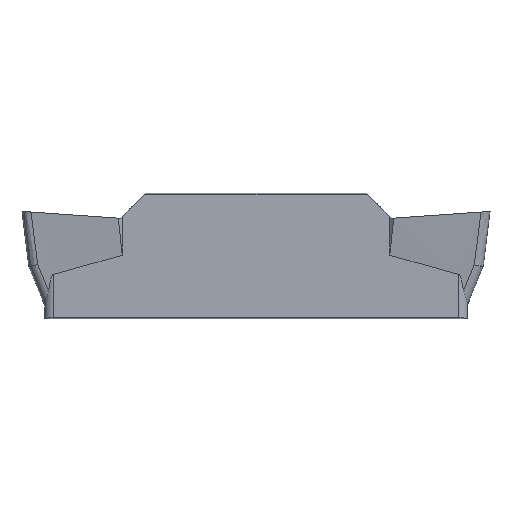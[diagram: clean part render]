
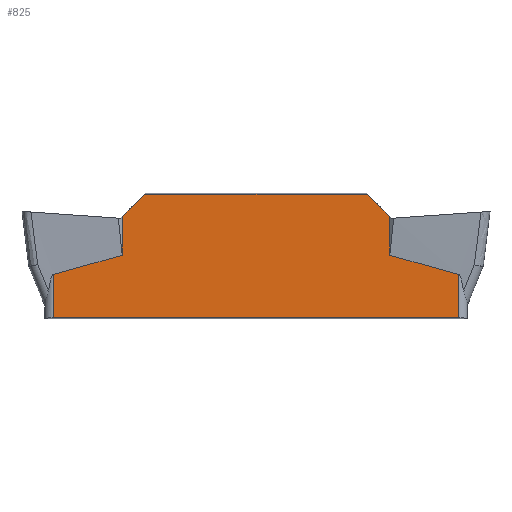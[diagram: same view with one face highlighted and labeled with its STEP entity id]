
A CAD part, front view. The second image highlights one B-rep face of the part: STEP entity #825.
In plain terms, the highlighted planar face has unit normal (0, -1, 0).
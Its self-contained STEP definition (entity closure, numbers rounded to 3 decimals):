
#5 = LINE ( 'NONE', #675, #890 ) ;
#25 = VERTEX_POINT ( 'NONE', #107 ) ;
#30 = EDGE_CURVE ( 'NONE', #1676, #437, #1653, .T. ) ;
#49 = CARTESIAN_POINT ( 'NONE',  ( 16.5, 0.325, -1.963 ) ) ;
#51 = DIRECTION ( 'NONE',  ( -0.999, 0., 0.047 ) ) ;
#54 = EDGE_CURVE ( 'NONE', #1839, #996, #971, .T. ) ;
#107 = CARTESIAN_POINT ( 'NONE',  ( 19.589, 0.325, -2.83 ) ) ;
#193 = DIRECTION ( 'NONE',  ( 0., 0., -1. ) ) ;
#241 = DIRECTION ( 'NONE',  ( 0., 1., 0. ) ) ;
#277 = ORIENTED_EDGE ( 'NONE', *, *, #1888, .T. ) ;
#319 = ORIENTED_EDGE ( 'NONE', *, *, #1704, .F. ) ;
#324 = CARTESIAN_POINT ( 'NONE',  ( 1.105, 0.325, -0.992 ) ) ;
#335 = CARTESIAN_POINT ( 'NONE',  ( 19.589, 0.325, -4.771 ) ) ;
#384 = ORIENTED_EDGE ( 'NONE', *, *, #1477, .T. ) ;
#417 = CARTESIAN_POINT ( 'NONE',  ( 16.5, 0.325, -0.261 ) ) ;
#420 = VECTOR ( 'NONE', #842, 1000. ) ;
#437 = VERTEX_POINT ( 'NONE', #600 ) ;
#497 = DIRECTION ( 'NONE',  ( 1., 0., 0. ) ) ;
#500 = LINE ( 'NONE', #1131, #420 ) ;
#501 = CARTESIAN_POINT ( 'NONE',  ( -9.5, 0.325, 0.771 ) ) ;
#503 = VERTEX_POINT ( 'NONE', #1237 ) ;
#523 = VECTOR ( 'NONE', #913, 1000. ) ;
#529 = CARTESIAN_POINT ( 'NONE',  ( 19.895, 0.325, -0.992 ) ) ;
#535 = CARTESIAN_POINT ( 'NONE',  ( 5.736, 0.325, 1. ) ) ;
#560 = VECTOR ( 'NONE', #497, 1000. ) ;
#582 = EDGE_CURVE ( 'NONE', #1320, #1717, #1756, .T. ) ;
#588 = ORIENTED_EDGE ( 'NONE', *, *, #1999, .T. ) ;
#600 = CARTESIAN_POINT ( 'NONE',  ( 16.524, 0.325, -0.26 ) ) ;
#601 = CARTESIAN_POINT ( 'NONE',  ( 4.5, 0.325, -1.963 ) ) ;
#625 = VECTOR ( 'NONE', #1280, 1000. ) ;
#628 = ORIENTED_EDGE ( 'NONE', *, *, #30, .T. ) ;
#675 = CARTESIAN_POINT ( 'NONE',  ( 19.589, 0.325, 1. ) ) ;
#684 = EDGE_CURVE ( 'NONE', #503, #879, #1939, .T. ) ;
#701 = DIRECTION ( 'NONE',  ( 0., 0., -1. ) ) ;
#766 = CARTESIAN_POINT ( 'NONE',  ( 1.411, 0.325, -2.83 ) ) ;
#773 = ORIENTED_EDGE ( 'NONE', *, *, #1776, .F. ) ;
#808 = ORIENTED_EDGE ( 'NONE', *, *, #1914, .F. ) ;
#817 = LINE ( 'NONE', #1918, #1954 ) ;
#822 = VECTOR ( 'NONE', #1556, 1000. ) ;
#825 = ADVANCED_FACE ( 'NONE', ( #1967 ), #1341, .F. ) ;
#842 = DIRECTION ( 'NONE',  ( 0., 0., -1. ) ) ;
#879 = VERTEX_POINT ( 'NONE', #1752 ) ;
#890 = VECTOR ( 'NONE', #193, 1000. ) ;
#913 = DIRECTION ( 'NONE',  ( 0.963, 0., -0.27 ) ) ;
#925 = ORIENTED_EDGE ( 'NONE', *, *, #582, .T. ) ;
#964 = VERTEX_POINT ( 'NONE', #335 ) ;
#971 = LINE ( 'NONE', #501, #1278 ) ;
#983 = CARTESIAN_POINT ( 'NONE',  ( 5.507, 0.325, 0.771 ) ) ;
#996 = VERTEX_POINT ( 'NONE', #1397 ) ;
#1096 = CARTESIAN_POINT ( 'NONE',  ( 1.37, 0.325, 2.282 ) ) ;
#1131 = CARTESIAN_POINT ( 'NONE',  ( 1.411, 0.325, 1. ) ) ;
#1157 = LINE ( 'NONE', #1771, #625 ) ;
#1163 = CARTESIAN_POINT ( 'NONE',  ( 1.411, 0.325, -4.771 ) ) ;
#1167 = DIRECTION ( 'NONE',  ( -0.707, 0., -0.707 ) ) ;
#1177 = VERTEX_POINT ( 'NONE', #1163 ) ;
#1178 = CARTESIAN_POINT ( 'NONE',  ( 19.989, 0.325, 1. ) ) ;
#1206 = ORIENTED_EDGE ( 'NONE', *, *, #1869, .F. ) ;
#1237 = CARTESIAN_POINT ( 'NONE',  ( 4.5, 0.325, -0.261 ) ) ;
#1265 = DIRECTION ( 'NONE',  ( 1., 0., 0. ) ) ;
#1278 = VECTOR ( 'NONE', #1265, 1000. ) ;
#1280 = DIRECTION ( 'NONE',  ( 0.707, 0., -0.707 ) ) ;
#1320 = VERTEX_POINT ( 'NONE', #601 ) ;
#1341 = PLANE ( 'NONE',  #1648 ) ;
#1397 = CARTESIAN_POINT ( 'NONE',  ( 15.493, 0.325, 0.771 ) ) ;
#1412 = ORIENTED_EDGE ( 'NONE', *, *, #684, .F. ) ;
#1444 = DIRECTION ( 'NONE',  ( 0., 0., -1. ) ) ;
#1469 = LINE ( 'NONE', #1944, #560 ) ;
#1477 = EDGE_CURVE ( 'NONE', #1717, #1177, #500, .T. ) ;
#1486 = VECTOR ( 'NONE', #701, 1000. ) ;
#1497 = LINE ( 'NONE', #1642, #1486 ) ;
#1499 = DIRECTION ( 'NONE',  ( 1., 0., 0. ) ) ;
#1549 = VECTOR ( 'NONE', #51, 1000. ) ;
#1556 = DIRECTION ( 'NONE',  ( -0.963, 0., -0.27 ) ) ;
#1575 = CARTESIAN_POINT ( 'NONE',  ( 19.63, 0.325, 2.282 ) ) ;
#1603 = ORIENTED_EDGE ( 'NONE', *, *, #1847, .T. ) ;
#1642 = CARTESIAN_POINT ( 'NONE',  ( 16.5, 0.325, 3. ) ) ;
#1648 = AXIS2_PLACEMENT_3D ( 'NONE', #1178, #241, #1499 ) ;
#1653 = LINE ( 'NONE', #324, #1975 ) ;
#1659 = EDGE_LOOP ( 'NONE', ( #1603, #1206, #319, #808, #628, #773, #1929, #588, #1412, #277, #925, #384 ) ) ;
#1676 = VERTEX_POINT ( 'NONE', #417 ) ;
#1698 = LINE ( 'NONE', #1096, #523 ) ;
#1704 = EDGE_CURVE ( 'NONE', #1991, #25, #1698, .T. ) ;
#1717 = VERTEX_POINT ( 'NONE', #766 ) ;
#1752 = CARTESIAN_POINT ( 'NONE',  ( 4.476, 0.325, -0.26 ) ) ;
#1756 = LINE ( 'NONE', #1575, #822 ) ;
#1758 = DIRECTION ( 'NONE',  ( 0.999, 0., 0.047 ) ) ;
#1771 = CARTESIAN_POINT ( 'NONE',  ( 15.264, 0.325, 1. ) ) ;
#1776 = EDGE_CURVE ( 'NONE', #996, #437, #1157, .T. ) ;
#1839 = VERTEX_POINT ( 'NONE', #983 ) ;
#1847 = EDGE_CURVE ( 'NONE', #1177, #964, #1469, .T. ) ;
#1869 = EDGE_CURVE ( 'NONE', #25, #964, #5, .T. ) ;
#1888 = EDGE_CURVE ( 'NONE', #503, #1320, #817, .T. ) ;
#1914 = EDGE_CURVE ( 'NONE', #1676, #1991, #1497, .T. ) ;
#1918 = CARTESIAN_POINT ( 'NONE',  ( 4.5, 0.325, 3. ) ) ;
#1929 = ORIENTED_EDGE ( 'NONE', *, *, #54, .F. ) ;
#1939 = LINE ( 'NONE', #529, #1549 ) ;
#1944 = CARTESIAN_POINT ( 'NONE',  ( -9.5, 0.325, -4.771 ) ) ;
#1952 = VECTOR ( 'NONE', #1167, 1000. ) ;
#1954 = VECTOR ( 'NONE', #1444, 1000. ) ;
#1956 = LINE ( 'NONE', #535, #1952 ) ;
#1967 = FACE_OUTER_BOUND ( 'NONE', #1659, .T. ) ;
#1975 = VECTOR ( 'NONE', #1758, 1000. ) ;
#1991 = VERTEX_POINT ( 'NONE', #49 ) ;
#1999 = EDGE_CURVE ( 'NONE', #1839, #879, #1956, .T. ) ;
